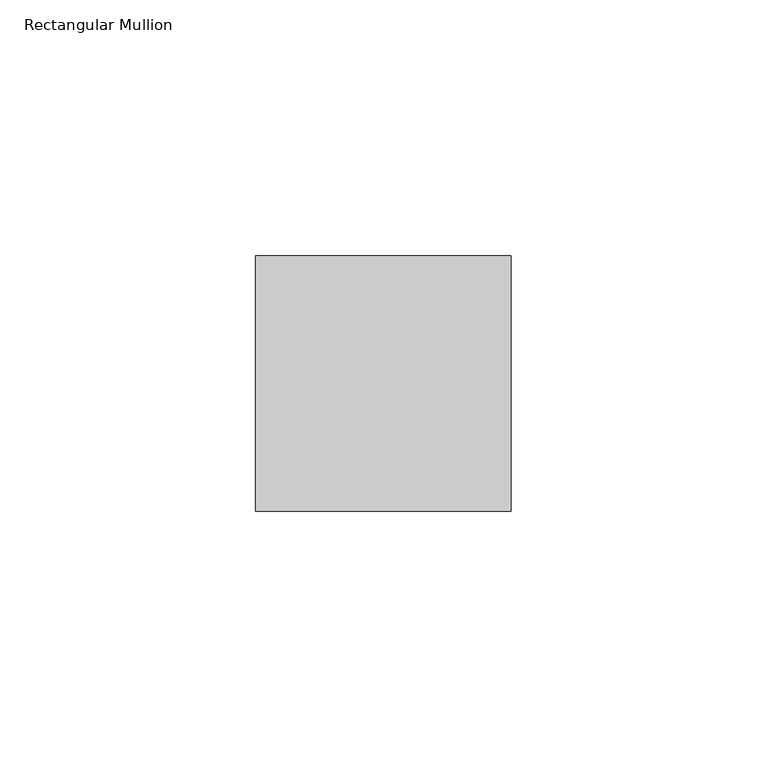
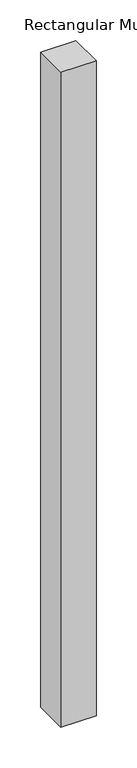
"""IFC4 building model written with IfcOpenShell, lengths in millimetres: member geometry, Rectangular Mullion : Mullion_Curtain Wall_Generic Showcase_50x50mm."""

from ifc_helpers import new_model, si_unit, frame, origin, place, context, project, spatial, polyline, outline, extrude, source, transform, mapped, element, save


def rectangular_mullion_265d4001(model_context):
    return source(origin(), model_context, "Body", "SweptSolid", [
        extrude(outline(polyline([(0.0, 50.0), (0.0, 0.0), (-50.0, 0.0), (-50.0, 50.0), (0.0, 50.0)])), frame((0.0, 0.0, -985.0), z_axis=(0.0, 0.0, 1.0), x_axis=(1.0, 0.0, 0.0)), (0.0, 0.0, 1.0), 985.0),
    ])


if __name__ == "__main__":
    model = new_model("IFC4")
    model_context = context("Model", 3, world=origin())
    ifc_project = project(units=[si_unit("LENGTHUNIT", "METRE", prefix="MILLI")], contexts=[model_context])
    site = spatial("IfcSite", under=ifc_project)
    building = spatial("IfcBuilding", under=site)
    placement = place(None, origin())
    rectangular_mullion_shape = rectangular_mullion_265d4001(model_context)
    element("IfcMember", 1, ObjectType="Rectangular Mullion : Mullion_Curtain Wall_Generic Showcase_50x50mm", at=placement, inside=building, context=model_context, shape_type="MappedRepresentation", body=[
        mapped(rectangular_mullion_shape, transform((0.0, 0.0, 0.0), x_axis=(1.0, 0.0, 0.0), y_axis=(0.0, 1.0, 0.0), z_axis=(0.0, 0.0, 1.0))),
    ])
    save(model, "model.ifc")
